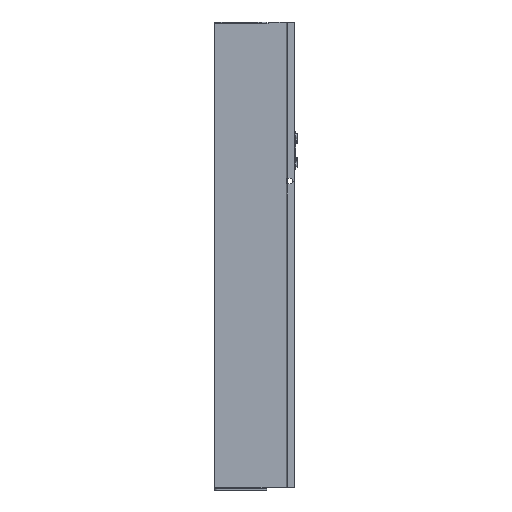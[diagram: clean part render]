
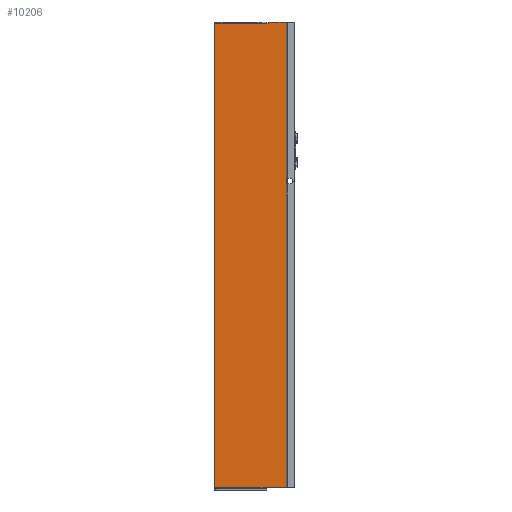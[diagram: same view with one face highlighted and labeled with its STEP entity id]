
A CAD part, left-side view. The second image highlights one B-rep face of the part: STEP entity #10206.
In plain terms, the highlighted planar face has unit normal (-1, 0, 0).
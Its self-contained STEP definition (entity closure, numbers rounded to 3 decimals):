
#426 = LINE ( 'NONE', #5965, #13412 ) ;
#630 = CARTESIAN_POINT ( 'NONE',  ( 0., 18.5, 245. ) ) ;
#787 = VERTEX_POINT ( 'NONE', #7657 ) ;
#929 = ORIENTED_EDGE ( 'NONE', *, *, #4262, .T. ) ;
#943 = VECTOR ( 'NONE', #5648, 1000. ) ;
#1205 = CARTESIAN_POINT ( 'NONE',  ( 0., 0., 243.8 ) ) ;
#1213 = VECTOR ( 'NONE', #13655, 1000. ) ;
#1242 = DIRECTION ( 'NONE',  ( 0., 0., -1. ) ) ;
#1607 = CARTESIAN_POINT ( 'NONE',  ( 0., 20.3, 243.5 ) ) ;
#1694 = VERTEX_POINT ( 'NONE', #1940 ) ;
#1940 = CARTESIAN_POINT ( 'NONE',  ( 0., 0., -244. ) ) ;
#2326 = ORIENTED_EDGE ( 'NONE', *, *, #6887, .F. ) ;
#2490 = VERTEX_POINT ( 'NONE', #8276 ) ;
#2906 = ORIENTED_EDGE ( 'NONE', *, *, #5746, .F. ) ;
#2921 = VERTEX_POINT ( 'NONE', #4897 ) ;
#2926 = ORIENTED_EDGE ( 'NONE', *, *, #13513, .F. ) ;
#3048 = LINE ( 'NONE', #11814, #6411 ) ;
#3122 = LINE ( 'NONE', #10049, #9803 ) ;
#3349 = AXIS2_PLACEMENT_3D ( 'NONE', #16322, #8800, #1242 ) ;
#3391 = LINE ( 'NONE', #1205, #13055 ) ;
#3492 = VERTEX_POINT ( 'NONE', #12018 ) ;
#3505 = VERTEX_POINT ( 'NONE', #8395 ) ;
#3665 = EDGE_CURVE ( 'NONE', #3505, #1694, #4576, .T. ) ;
#3880 = VERTEX_POINT ( 'NONE', #9416 ) ;
#4116 = AXIS2_PLACEMENT_3D ( 'NONE', #6176, #14941, #7422 ) ;
#4262 = EDGE_CURVE ( 'NONE', #3880, #14736, #426, .T. ) ;
#4288 = DIRECTION ( 'NONE',  ( 0., 0., -1. ) ) ;
#4307 = VECTOR ( 'NONE', #7956, 1000. ) ;
#4440 = EDGE_CURVE ( 'NONE', #2921, #9275, #3122, .T. ) ;
#4492 = ORIENTED_EDGE ( 'NONE', *, *, #10231, .F. ) ;
#4576 = LINE ( 'NONE', #7399, #1213 ) ;
#4884 = EDGE_CURVE ( 'NONE', #3492, #787, #14724, .T. ) ;
#4897 = CARTESIAN_POINT ( 'NONE',  ( 0., 18.3, 245. ) ) ;
#4950 = CARTESIAN_POINT ( 'NONE',  ( 0., 0., 245. ) ) ;
#5263 = CIRCLE ( 'NONE', #3349, 0.2 ) ;
#5648 = DIRECTION ( 'NONE',  ( 0., 0., -1. ) ) ;
#5746 = EDGE_CURVE ( 'NONE', #9678, #2490, #7644, .T. ) ;
#5965 = CARTESIAN_POINT ( 'NONE',  ( 0., 20.5, 243.5 ) ) ;
#6053 = EDGE_CURVE ( 'NONE', #3880, #787, #5263, .T. ) ;
#6176 = CARTESIAN_POINT ( 'NONE',  ( 0., 18.3, 244.8 ) ) ;
#6243 = DIRECTION ( 'NONE',  ( -1., 0., 0. ) ) ;
#6411 = VECTOR ( 'NONE', #4288, 1000. ) ;
#6641 = CIRCLE ( 'NONE', #4116, 0.2 ) ;
#6687 = CARTESIAN_POINT ( 'NONE',  ( 0., 20.3, 243.7 ) ) ;
#6883 = ORIENTED_EDGE ( 'NONE', *, *, #8339, .T. ) ;
#6887 = EDGE_CURVE ( 'NONE', #3492, #2921, #6641, .T. ) ;
#7020 = CARTESIAN_POINT ( 'NONE',  ( 0., 75., 243.8 ) ) ;
#7244 = CARTESIAN_POINT ( 'NONE',  ( 0., 0., 245. ) ) ;
#7387 = AXIS2_PLACEMENT_3D ( 'NONE', #4950, #6243, #15028 ) ;
#7399 = CARTESIAN_POINT ( 'NONE',  ( 0., 20.5, -244. ) ) ;
#7422 = DIRECTION ( 'NONE',  ( 0., 0., -1. ) ) ;
#7644 = LINE ( 'NONE', #12940, #4307 ) ;
#7657 = CARTESIAN_POINT ( 'NONE',  ( 0., 18.5, 243.7 ) ) ;
#7858 = ORIENTED_EDGE ( 'NONE', *, *, #3665, .T. ) ;
#7956 = DIRECTION ( 'NONE',  ( 0., 0., -1. ) ) ;
#7958 = DIRECTION ( 'NONE',  ( 0., 0., -1. ) ) ;
#8276 = CARTESIAN_POINT ( 'NONE',  ( 0., 20.5, 243.7 ) ) ;
#8339 = EDGE_CURVE ( 'NONE', #10791, #3505, #3048, .T. ) ;
#8395 = CARTESIAN_POINT ( 'NONE',  ( 0., 75., -244. ) ) ;
#8505 = DIRECTION ( 'NONE',  ( 0., 0., 1. ) ) ;
#8636 = EDGE_LOOP ( 'NONE', ( #12801, #10514, #929, #2926, #2906, #4492, #6883, #7858, #10600, #14316, #2326 ) ) ;
#8800 = DIRECTION ( 'NONE',  ( -1., 0., 0. ) ) ;
#9275 = VERTEX_POINT ( 'NONE', #12211 ) ;
#9416 = CARTESIAN_POINT ( 'NONE',  ( 0., 18.7, 243.5 ) ) ;
#9448 = CARTESIAN_POINT ( 'NONE',  ( 0., 20.5, 243.8 ) ) ;
#9678 = VERTEX_POINT ( 'NONE', #9448 ) ;
#9803 = VECTOR ( 'NONE', #11324, 1000. ) ;
#10049 = CARTESIAN_POINT ( 'NONE',  ( 0., 0., 245. ) ) ;
#10078 = LINE ( 'NONE', #7244, #13052 ) ;
#10141 = AXIS2_PLACEMENT_3D ( 'NONE', #6687, #15485, #7958 ) ;
#10206 = ADVANCED_FACE ( 'NONE', ( #10500 ), #12504, .T. ) ;
#10231 = EDGE_CURVE ( 'NONE', #10791, #9678, #3391, .T. ) ;
#10500 = FACE_OUTER_BOUND ( 'NONE', #8636, .T. ) ;
#10514 = ORIENTED_EDGE ( 'NONE', *, *, #6053, .F. ) ;
#10600 = ORIENTED_EDGE ( 'NONE', *, *, #14973, .T. ) ;
#10791 = VERTEX_POINT ( 'NONE', #7020 ) ;
#11324 = DIRECTION ( 'NONE',  ( 0., -1., 0. ) ) ;
#11814 = CARTESIAN_POINT ( 'NONE',  ( 0., 75., 245. ) ) ;
#12018 = CARTESIAN_POINT ( 'NONE',  ( 0., 18.5, 244.8 ) ) ;
#12211 = CARTESIAN_POINT ( 'NONE',  ( 0., 0., 245. ) ) ;
#12504 = PLANE ( 'NONE',  #7387 ) ;
#12554 = DIRECTION ( 'NONE',  ( 0., -1., 0. ) ) ;
#12801 = ORIENTED_EDGE ( 'NONE', *, *, #4884, .T. ) ;
#12940 = CARTESIAN_POINT ( 'NONE',  ( 0., 20.5, 243.8 ) ) ;
#13052 = VECTOR ( 'NONE', #8505, 1000. ) ;
#13055 = VECTOR ( 'NONE', #12554, 1000. ) ;
#13066 = CIRCLE ( 'NONE', #10141, 0.2 ) ;
#13412 = VECTOR ( 'NONE', #13532, 1000. ) ;
#13513 = EDGE_CURVE ( 'NONE', #2490, #14736, #13066, .T. ) ;
#13532 = DIRECTION ( 'NONE',  ( 0., 1., 0. ) ) ;
#13655 = DIRECTION ( 'NONE',  ( 0., -1., 0. ) ) ;
#14316 = ORIENTED_EDGE ( 'NONE', *, *, #4440, .F. ) ;
#14724 = LINE ( 'NONE', #630, #943 ) ;
#14736 = VERTEX_POINT ( 'NONE', #1607 ) ;
#14941 = DIRECTION ( 'NONE',  ( 1., 0., 0. ) ) ;
#14973 = EDGE_CURVE ( 'NONE', #1694, #9275, #10078, .T. ) ;
#15028 = DIRECTION ( 'NONE',  ( 0., 0., -1. ) ) ;
#15485 = DIRECTION ( 'NONE',  ( -1., 0., 0. ) ) ;
#16322 = CARTESIAN_POINT ( 'NONE',  ( 0., 18.7, 243.7 ) ) ;
